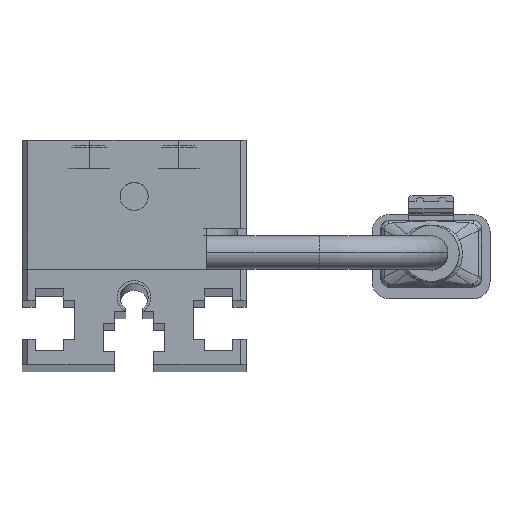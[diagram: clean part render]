
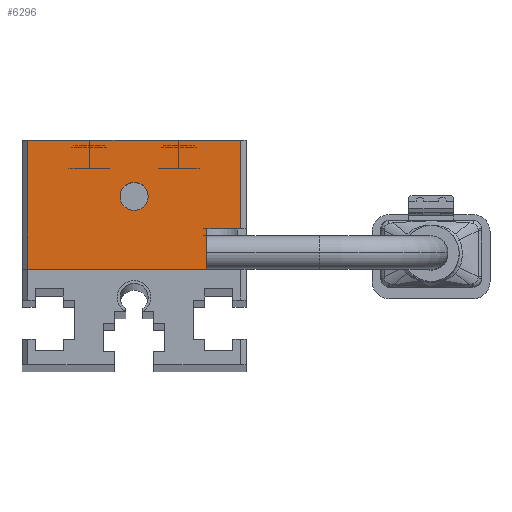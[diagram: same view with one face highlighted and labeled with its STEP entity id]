
A CAD part, top view. The second image highlights one B-rep face of the part: STEP entity #6296.
In plain terms, the highlighted planar face has unit normal (0, 0, 1) as drawn and (0, 0, -1) by its records, which use the part's own axes.
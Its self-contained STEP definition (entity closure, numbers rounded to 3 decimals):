
#66 = ORIENTED_EDGE ( 'NONE', *, *, #1929, .F. ) ;
#144 = ORIENTED_EDGE ( 'NONE', *, *, #7230, .F. ) ;
#189 = PLANE ( 'NONE',  #9008 ) ;
#714 = ORIENTED_EDGE ( 'NONE', *, *, #4555, .F. ) ;
#725 = ORIENTED_EDGE ( 'NONE', *, *, #10704, .F. ) ;
#732 = VERTEX_POINT ( 'NONE', #6751 ) ;
#852 = LINE ( 'NONE', #1786, #7293 ) ;
#935 = CARTESIAN_POINT ( 'NONE',  ( 9.5, 11.5, 0. ) ) ;
#1048 = CARTESIAN_POINT ( 'NONE',  ( -10., 11.5, 0. ) ) ;
#1114 = DIRECTION ( 'NONE',  ( -1., 0., 0. ) ) ;
#1140 = LINE ( 'NONE', #3195, #3462 ) ;
#1786 = CARTESIAN_POINT ( 'NONE',  ( 9.5, 0., 0. ) ) ;
#1839 = LINE ( 'NONE', #4027, #5390 ) ;
#1929 = EDGE_CURVE ( 'NONE', #5280, #4738, #3202, .T. ) ;
#2072 = ORIENTED_EDGE ( 'NONE', *, *, #4340, .T. ) ;
#2452 = DIRECTION ( 'NONE',  ( -1., 0., 0. ) ) ;
#2750 = DIRECTION ( 'NONE',  ( -1., 0., 0. ) ) ;
#2756 = CARTESIAN_POINT ( 'NONE',  ( 9.5, 0., 0. ) ) ;
#2907 = DIRECTION ( 'NONE',  ( 0., 1., 0. ) ) ;
#3138 = CARTESIAN_POINT ( 'NONE',  ( -9.5, 3.6, 0. ) ) ;
#3195 = CARTESIAN_POINT ( 'NONE',  ( -10., 0., 0. ) ) ;
#3202 = LINE ( 'NONE', #3138, #7871 ) ;
#3248 = LINE ( 'NONE', #5403, #6040 ) ;
#3258 = CARTESIAN_POINT ( 'NONE',  ( -9.5, 11.5, 0. ) ) ;
#3462 = VECTOR ( 'NONE', #10248, 1000. ) ;
#3611 = DIRECTION ( 'NONE',  ( -1., 0., 0. ) ) ;
#4027 = CARTESIAN_POINT ( 'NONE',  ( -9.5, 11.5, 0. ) ) ;
#4184 = VERTEX_POINT ( 'NONE', #935 ) ;
#4340 = EDGE_CURVE ( 'NONE', #4184, #7940, #852, .T. ) ;
#4441 = AXIS2_PLACEMENT_3D ( 'NONE', #4466, #12614, #3611 ) ;
#4466 = CARTESIAN_POINT ( 'NONE',  ( 0., 6.5, 0. ) ) ;
#4555 = EDGE_CURVE ( 'NONE', #4184, #11574, #3248, .T. ) ;
#4708 = EDGE_CURVE ( 'NONE', #5280, #11574, #1839, .T. ) ;
#4738 = VERTEX_POINT ( 'NONE', #7957 ) ;
#4769 = LINE ( 'NONE', #11683, #9224 ) ;
#4772 = CARTESIAN_POINT ( 'NONE',  ( -6.5, 0., 0. ) ) ;
#4784 = DIRECTION ( 'NONE',  ( 0., 0., -1. ) ) ;
#4801 = ORIENTED_EDGE ( 'NONE', *, *, #5754, .F. ) ;
#5280 = VERTEX_POINT ( 'NONE', #5555 ) ;
#5390 = VECTOR ( 'NONE', #2907, 1000. ) ;
#5403 = CARTESIAN_POINT ( 'NONE',  ( -10., 11.5, 0. ) ) ;
#5555 = CARTESIAN_POINT ( 'NONE',  ( -9.5, 3.6, 0. ) ) ;
#5559 = DIRECTION ( 'NONE',  ( 0., -1., 0. ) ) ;
#5605 = EDGE_LOOP ( 'NONE', ( #4801, #725 ) ) ;
#5754 = EDGE_CURVE ( 'NONE', #11375, #732, #10268, .T. ) ;
#6000 = FACE_BOUND ( 'NONE', #5605, .T. ) ;
#6040 = VECTOR ( 'NONE', #2452, 1000. ) ;
#6296 = ADVANCED_FACE ( 'NONE', ( #7245, #6000 ), #189, .T. ) ;
#6554 = CARTESIAN_POINT ( 'NONE',  ( 0., 6.5, 0. ) ) ;
#6598 = EDGE_LOOP ( 'NONE', ( #144, #66, #8225, #714, #2072, #12072 ) ) ;
#6751 = CARTESIAN_POINT ( 'NONE',  ( 1.25, 6.5, 0. ) ) ;
#7230 = EDGE_CURVE ( 'NONE', #4738, #11384, #4769, .T. ) ;
#7245 = FACE_OUTER_BOUND ( 'NONE', #6598, .T. ) ;
#7293 = VECTOR ( 'NONE', #7771, 1000. ) ;
#7771 = DIRECTION ( 'NONE',  ( 0., -1., 0. ) ) ;
#7871 = VECTOR ( 'NONE', #11231, 1000. ) ;
#7940 = VERTEX_POINT ( 'NONE', #2756 ) ;
#7957 = CARTESIAN_POINT ( 'NONE',  ( -6.5, 3.6, 0. ) ) ;
#8225 = ORIENTED_EDGE ( 'NONE', *, *, #4708, .T. ) ;
#8705 = CARTESIAN_POINT ( 'NONE',  ( -1.25, 6.5, 0. ) ) ;
#9008 = AXIS2_PLACEMENT_3D ( 'NONE', #1048, #9017, #1114 ) ;
#9017 = DIRECTION ( 'NONE',  ( 0., 0., -1. ) ) ;
#9224 = VECTOR ( 'NONE', #5559, 1000. ) ;
#10248 = DIRECTION ( 'NONE',  ( 1., 0., 0. ) ) ;
#10268 = CIRCLE ( 'NONE', #10691, 1.25 ) ;
#10691 = AXIS2_PLACEMENT_3D ( 'NONE', #6554, #4784, #2750 ) ;
#10704 = EDGE_CURVE ( 'NONE', #732, #11375, #11998, .T. ) ;
#11231 = DIRECTION ( 'NONE',  ( 1., 0., 0. ) ) ;
#11375 = VERTEX_POINT ( 'NONE', #8705 ) ;
#11384 = VERTEX_POINT ( 'NONE', #4772 ) ;
#11574 = VERTEX_POINT ( 'NONE', #3258 ) ;
#11683 = CARTESIAN_POINT ( 'NONE',  ( -6.5, 3., 0. ) ) ;
#11998 = CIRCLE ( 'NONE', #4441, 1.25 ) ;
#12072 = ORIENTED_EDGE ( 'NONE', *, *, #12607, .F. ) ;
#12607 = EDGE_CURVE ( 'NONE', #11384, #7940, #1140, .T. ) ;
#12614 = DIRECTION ( 'NONE',  ( 0., 0., -1. ) ) ;
